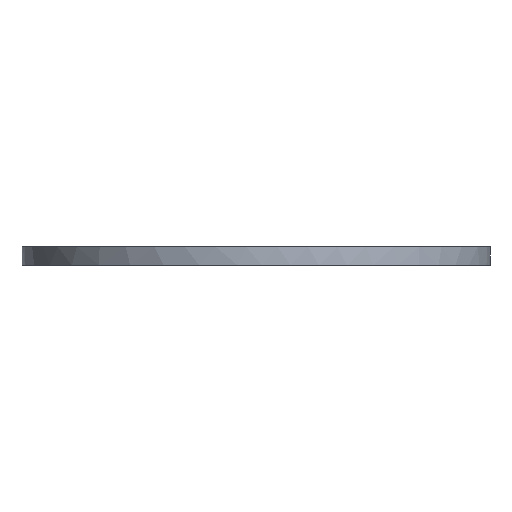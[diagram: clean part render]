
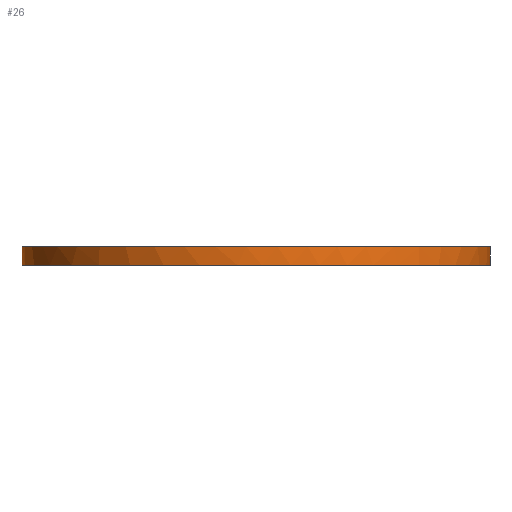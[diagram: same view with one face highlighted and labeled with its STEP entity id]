
A CAD part, left-side view. The second image highlights one B-rep face of the part: STEP entity #26.
In plain terms, the highlighted free-form (B-spline) face has degree [2, 1] with [9, 2] control points.
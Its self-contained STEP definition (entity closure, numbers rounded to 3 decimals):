
#26=ADVANCED_FACE('',(#32),#188,.T.);
#32=FACE_OUTER_BOUND('',#38,.T.);
#38=EDGE_LOOP('',(#46,#47,#48,#49));
#46=ORIENTED_EDGE('',*,*,#150,.T.);
#47=ORIENTED_EDGE('',*,*,#151,.T.);
#48=ORIENTED_EDGE('',*,*,#152,.T.);
#49=ORIENTED_EDGE('',*,*,#153,.T.);
#70=PCURVE('',#188,#94);
#71=PCURVE('',#188,#95);
#72=PCURVE('',#188,#96);
#73=PCURVE('',#188,#97);
#83=PCURVE('',#191,#107);
#85=PCURVE('',#191,#109);
#86=PCURVE('',#186,#110);
#91=PCURVE('',#187,#115);
#94=DEFINITIONAL_REPRESENTATION('',(#118),#453);
#95=DEFINITIONAL_REPRESENTATION('',(#120),#453);
#96=DEFINITIONAL_REPRESENTATION('',(#121),#453);
#97=DEFINITIONAL_REPRESENTATION('',(#123),#453);
#107=DEFINITIONAL_REPRESENTATION('',(#135),#453);
#109=DEFINITIONAL_REPRESENTATION('',(#137),#453);
#110=DEFINITIONAL_REPRESENTATION('',(#170),#453);
#115=DEFINITIONAL_REPRESENTATION('',(#175),#453);
#118=B_SPLINE_CURVE_WITH_KNOTS('',1,(#313,#314),.UNSPECIFIED.,.F.,.F.,(2,
2),(-8.283,-5.142),.UNSPECIFIED.);
#119=B_SPLINE_CURVE_WITH_KNOTS('',1,(#315,#316),.UNSPECIFIED.,.F.,.F.,(2,
2),(-5.142,-4.142),.UNSPECIFIED.);
#120=B_SPLINE_CURVE_WITH_KNOTS('',1,(#317,#318),.UNSPECIFIED.,.F.,.F.,(2,
2),(-5.142,-4.142),.UNSPECIFIED.);
#121=B_SPLINE_CURVE_WITH_KNOTS('',1,(#328,#329),.UNSPECIFIED.,.F.,.F.,(2,
2),(-4.142,-1.),.UNSPECIFIED.);
#122=B_SPLINE_CURVE_WITH_KNOTS('',1,(#330,#331),.UNSPECIFIED.,.F.,.F.,(2,
2),(-1.,0.),.UNSPECIFIED.);
#123=B_SPLINE_CURVE_WITH_KNOTS('',1,(#332,#333),.UNSPECIFIED.,.F.,.F.,(2,
2),(-1.,0.),.UNSPECIFIED.);
#135=B_SPLINE_CURVE_WITH_KNOTS('',1,(#385,#386),.UNSPECIFIED.,.F.,.F.,(2,
2),(-5.142,-4.142),.UNSPECIFIED.);
#137=B_SPLINE_CURVE_WITH_KNOTS('',1,(#398,#399),.UNSPECIFIED.,.F.,.F.,(2,
2),(-1.,0.),.UNSPECIFIED.);
#138=SURFACE_CURVE('',#162,(#70,#86),.PCURVE_S1.);
#139=SURFACE_CURVE('',#119,(#71,#83),.PCURVE_S1.);
#140=SURFACE_CURVE('',#163,(#72,#91),.PCURVE_S1.);
#141=SURFACE_CURVE('',#122,(#73,#85),.PCURVE_S1.);
#150=EDGE_CURVE('',#178,#181,#138,.T.);
#151=EDGE_CURVE('',#181,#180,#139,.T.);
#152=EDGE_CURVE('',#180,#179,#140,.T.);
#153=EDGE_CURVE('',#179,#178,#141,.T.);
#162=(
BOUNDED_CURVE()
B_SPLINE_CURVE(2,(#304,#305,#306,#307,#308,#309,#310,#311,#312),
 .UNSPECIFIED.,.F.,.F.)
B_SPLINE_CURVE_WITH_KNOTS((3,2,2,2,3),(-8.283,-6.869,
-6.712,-5.456,-5.142),.UNSPECIFIED.)
CURVE()
GEOMETRIC_REPRESENTATION_ITEM()
RATIONAL_B_SPLINE_CURVE((1.,0.76,1.,0.997,1.,0.809,
1.,0.988,1.))
REPRESENTATION_ITEM('')
);
#163=(
BOUNDED_CURVE()
B_SPLINE_CURVE(2,(#319,#320,#321,#322,#323,#324,#325,#326,#327),
 .UNSPECIFIED.,.F.,.F.)
B_SPLINE_CURVE_WITH_KNOTS((3,2,2,2,3),(-4.142,-2.885,
-2.571,-1.785,-1.),.UNSPECIFIED.)
CURVE()
GEOMETRIC_REPRESENTATION_ITEM()
RATIONAL_B_SPLINE_CURVE((1.,0.809,1.,0.988,1.,0.924,
1.,0.924,1.))
REPRESENTATION_ITEM('')
);
#170=(
BOUNDED_CURVE()
B_SPLINE_CURVE(2,(#400,#401,#402,#403,#404,#405,#406,#407,#408),
 .UNSPECIFIED.,.F.,.F.)
B_SPLINE_CURVE_WITH_KNOTS((3,2,2,2,3),(-8.283,-6.882,
-6.712,-5.472,-5.142),.UNSPECIFIED.)
CURVE()
GEOMETRIC_REPRESENTATION_ITEM()
RATIONAL_B_SPLINE_CURVE((1.,0.76,1.,0.997,1.,0.809,
1.,0.988,1.))
REPRESENTATION_ITEM('')
);
#175=(
BOUNDED_CURVE()
B_SPLINE_CURVE(2,(#435,#436,#437,#438,#439,#440,#441),.UNSPECIFIED.,.F.,
 .F.)
B_SPLINE_CURVE_WITH_KNOTS((3,2,2,3),(-4.142,-2.901,
-2.571,-1.),.UNSPECIFIED.)
CURVE()
GEOMETRIC_REPRESENTATION_ITEM()
RATIONAL_B_SPLINE_CURVE((1.,0.809,1.,0.988,1.,0.707,
1.))
REPRESENTATION_ITEM('')
);
#178=VERTEX_POINT('',#296);
#179=VERTEX_POINT('',#297);
#180=VERTEX_POINT('',#298);
#181=VERTEX_POINT('',#299);
#186=PLANE('',#212);
#187=PLANE('',#213);
#188=(
BOUNDED_SURFACE()
B_SPLINE_SURFACE(2,1,((#222,#223),(#224,#225),(#226,#227),(#228,#229),(#230,
#231),(#232,#233),(#234,#235),(#236,#237),(#238,#239)),.UNSPECIFIED.,.T.,
 .F.,.F.)
B_SPLINE_SURFACE_WITH_KNOTS((3,2,2,2,3),(2,2),(0.,1.571,3.142,
4.712,6.283),(0.,1.),.UNSPECIFIED.)
GEOMETRIC_REPRESENTATION_ITEM()
RATIONAL_B_SPLINE_SURFACE(((1.,1.),(0.707,0.707),
(1.,1.),(0.707,0.707),(1.,1.),(0.707,
0.707),(1.,1.),(0.707,0.707),(1.,1.)))
REPRESENTATION_ITEM('')
SURFACE()
);
#191=(
BOUNDED_SURFACE()
B_SPLINE_SURFACE(2,1,((#276,#277),(#278,#279),(#280,#281),(#282,#283),(#284,
#285),(#286,#287),(#288,#289),(#290,#291),(#292,#293)),.UNSPECIFIED.,.T.,
 .F.,.F.)
B_SPLINE_SURFACE_WITH_KNOTS((3,2,2,2,3),(2,2),(0.,1.571,3.142,
4.712,6.283),(0.,1.),.UNSPECIFIED.)
GEOMETRIC_REPRESENTATION_ITEM()
RATIONAL_B_SPLINE_SURFACE(((1.,1.),(0.707,0.707),
(1.,1.),(0.707,0.707),(1.,1.),(0.707,
0.707),(1.,1.),(0.707,0.707),(1.,1.)))
REPRESENTATION_ITEM('')
SURFACE()
);
#212=AXIS2_PLACEMENT_3D('',#294,#217,$);
#213=AXIS2_PLACEMENT_3D('',#295,#218,$);
#217=DIRECTION('',(0.,0.,1.));
#218=DIRECTION('',(0.,0.,-1.));
#222=CARTESIAN_POINT('',(-716.6,32.5,29.));
#223=CARTESIAN_POINT('',(-716.6,32.5,28.));
#224=CARTESIAN_POINT('',(-729.1,32.5,29.));
#225=CARTESIAN_POINT('',(-729.1,32.5,28.));
#226=CARTESIAN_POINT('',(-729.1,45.,29.));
#227=CARTESIAN_POINT('',(-729.1,45.,28.));
#228=CARTESIAN_POINT('',(-729.1,57.5,29.));
#229=CARTESIAN_POINT('',(-729.1,57.5,28.));
#230=CARTESIAN_POINT('',(-716.6,57.5,29.));
#231=CARTESIAN_POINT('',(-716.6,57.5,28.));
#232=CARTESIAN_POINT('',(-704.1,57.5,29.));
#233=CARTESIAN_POINT('',(-704.1,57.5,28.));
#234=CARTESIAN_POINT('',(-704.1,45.,29.));
#235=CARTESIAN_POINT('',(-704.1,45.,28.));
#236=CARTESIAN_POINT('',(-704.1,32.5,29.));
#237=CARTESIAN_POINT('',(-704.1,32.5,28.));
#238=CARTESIAN_POINT('',(-716.6,32.5,29.));
#239=CARTESIAN_POINT('',(-716.6,32.5,28.));
#276=CARTESIAN_POINT('',(-716.6,32.5,29.));
#277=CARTESIAN_POINT('',(-716.6,32.5,28.));
#278=CARTESIAN_POINT('',(-729.1,32.5,29.));
#279=CARTESIAN_POINT('',(-729.1,32.5,28.));
#280=CARTESIAN_POINT('',(-729.1,45.,29.));
#281=CARTESIAN_POINT('',(-729.1,45.,28.));
#282=CARTESIAN_POINT('',(-729.1,57.5,29.));
#283=CARTESIAN_POINT('',(-729.1,57.5,28.));
#284=CARTESIAN_POINT('',(-716.6,57.5,29.));
#285=CARTESIAN_POINT('',(-716.6,57.5,28.));
#286=CARTESIAN_POINT('',(-704.1,57.5,29.));
#287=CARTESIAN_POINT('',(-704.1,57.5,28.));
#288=CARTESIAN_POINT('',(-704.1,45.,29.));
#289=CARTESIAN_POINT('',(-704.1,45.,28.));
#290=CARTESIAN_POINT('',(-704.1,32.5,29.));
#291=CARTESIAN_POINT('',(-704.1,32.5,28.));
#292=CARTESIAN_POINT('',(-716.6,32.5,29.));
#293=CARTESIAN_POINT('',(-716.6,32.5,28.));
#294=CARTESIAN_POINT('',(-704.1,57.5,29.));
#295=CARTESIAN_POINT('',(-704.1,32.5,28.));
#296=CARTESIAN_POINT('',(-716.6,32.5,29.));
#297=CARTESIAN_POINT('',(-716.6,32.5,28.));
#298=CARTESIAN_POINT('',(-716.6,57.5,28.));
#299=CARTESIAN_POINT('',(-716.6,57.5,29.));
#304=CARTESIAN_POINT('',(-716.6,32.5,29.));
#305=CARTESIAN_POINT('',(-727.276,32.5,29.));
#306=CARTESIAN_POINT('',(-728.946,43.045,29.));
#307=CARTESIAN_POINT('',(-729.1,44.016,29.));
#308=CARTESIAN_POINT('',(-729.1,45.,29.));
#309=CARTESIAN_POINT('',(-729.1,54.082,29.));
#310=CARTESIAN_POINT('',(-720.463,56.888,29.));
#311=CARTESIAN_POINT('',(-718.58,57.5,29.));
#312=CARTESIAN_POINT('',(-716.6,57.5,29.));
#313=CARTESIAN_POINT('',(0.,0.));
#314=CARTESIAN_POINT('',(3.142,0.));
#315=CARTESIAN_POINT('',(-716.6,57.5,29.));
#316=CARTESIAN_POINT('',(-716.6,57.5,28.));
#317=CARTESIAN_POINT('',(3.142,0.));
#318=CARTESIAN_POINT('',(3.142,1.));
#319=CARTESIAN_POINT('',(-716.6,57.5,28.));
#320=CARTESIAN_POINT('',(-725.682,57.5,28.));
#321=CARTESIAN_POINT('',(-728.488,48.863,28.));
#322=CARTESIAN_POINT('',(-729.1,46.98,28.));
#323=CARTESIAN_POINT('',(-729.1,45.,28.));
#324=CARTESIAN_POINT('',(-729.1,39.822,28.));
#325=CARTESIAN_POINT('',(-725.439,36.161,28.));
#326=CARTESIAN_POINT('',(-721.778,32.5,28.));
#327=CARTESIAN_POINT('',(-716.6,32.5,28.));
#328=CARTESIAN_POINT('',(3.142,1.));
#329=CARTESIAN_POINT('',(0.,1.));
#330=CARTESIAN_POINT('',(-716.6,32.5,28.));
#331=CARTESIAN_POINT('',(-716.6,32.5,29.));
#332=CARTESIAN_POINT('',(0.,1.));
#333=CARTESIAN_POINT('',(0.,0.));
#385=CARTESIAN_POINT('',(3.142,0.));
#386=CARTESIAN_POINT('',(3.142,1.));
#398=CARTESIAN_POINT('',(6.283,1.));
#399=CARTESIAN_POINT('',(6.283,0.));
#400=CARTESIAN_POINT('',(0.5,1.));
#401=CARTESIAN_POINT('',(0.927,1.));
#402=CARTESIAN_POINT('',(0.994,0.578));
#403=CARTESIAN_POINT('',(1.,0.539));
#404=CARTESIAN_POINT('',(1.,0.5));
#405=CARTESIAN_POINT('',(1.,0.137));
#406=CARTESIAN_POINT('',(0.655,0.024));
#407=CARTESIAN_POINT('',(0.579,0.));
#408=CARTESIAN_POINT('',(0.5,0.));
#435=CARTESIAN_POINT('',(0.5,1.));
#436=CARTESIAN_POINT('',(0.863,1.));
#437=CARTESIAN_POINT('',(0.976,0.655));
#438=CARTESIAN_POINT('',(1.,0.579));
#439=CARTESIAN_POINT('',(1.,0.5));
#440=CARTESIAN_POINT('',(1.,0.));
#441=CARTESIAN_POINT('',(0.5,0.));
#453=(
GEOMETRIC_REPRESENTATION_CONTEXT(2)
PARAMETRIC_REPRESENTATION_CONTEXT()
REPRESENTATION_CONTEXT('pspace','')
);
